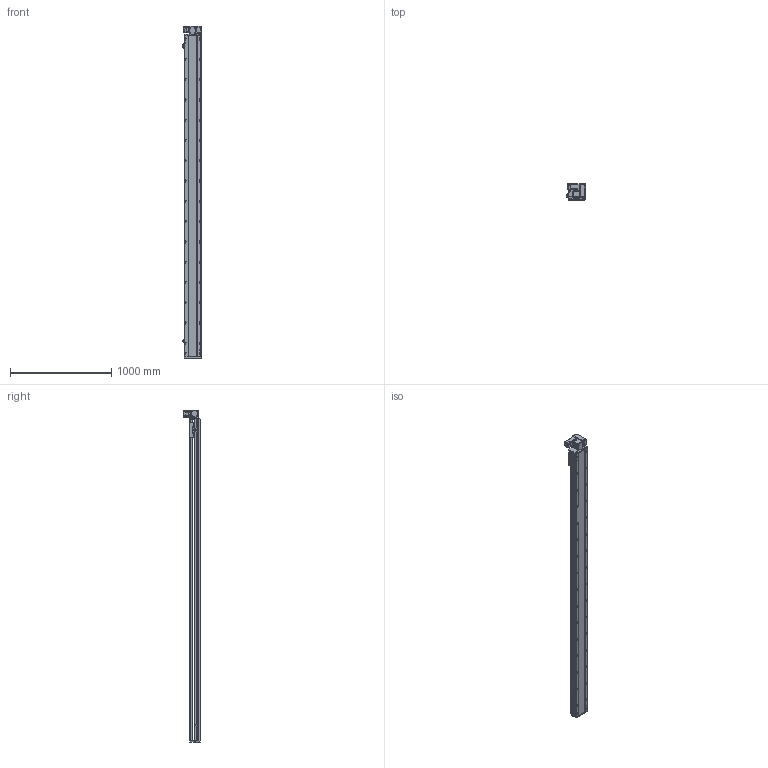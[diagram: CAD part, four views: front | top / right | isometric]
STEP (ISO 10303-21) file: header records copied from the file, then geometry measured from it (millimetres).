
FILE_DESCRIPTION (( 'STEP AP214' ), '1' );
FILE_NAME ('RTB17S-XX-2900-RW-M40-C4.STEP', '2025-12-11T09:16:24', ( '' ), ( '' ), 'SwSTEP 2.0', 'SolidWorks 2018', '' );
FILE_SCHEMA (( 'AUTOMOTIVE_DESIGN' ));
Length unit declared in the file: millimetre
Products named in the file (14): 400W侜督萇儂^RTB17S-XX-XX-RW-M40-C4; RTB17S-L-007奻裔^RTB17S-XX-XX-RW-M40-C4; RTB14-L-018P^RTB17S-RW-々湍釱蚾饜-400W_RTB17S-XX-XX-RW-M40-C4; RTB17S-XX-2900-RW-M40-C4; RTB17S-L-001耜醱啣^RTB17S-XX-XX-RW-M40-C4; RMP17S-L-014-T20--々湍釱^RTB17S-RW-々湍釱蚾饜-400W_RTB17S-XX-XX-RW-M40-C4; RTB14-L-017P^RTB17S-RW-々湍釱蚾饜-400W_RTB17S-XX-XX-RW-M40-C4; RTB14-L-008-M20--萇儂啣^RTB17S-RW-々湍釱蚾饜-400W_RTB17S-XX-XX-RW-M40-C4; RTB17S-L-004佪裝蹟譫蟀諉釱^RTB17S-XX-XX-RW-M40-C4; RTB14-L-005P--轴承塑胶压盖^RTB17S-RW-皮带座装配-400W_RTB17S-XX-XX-RW-M40-C4; RTB17-R-011菁釱^RTB17S-XX-XX-RW-M40-C4; RTB17S-RW-々湍釱蚾饜-400W^RTB17S-XX-XX-RW-M40-C4; OMRON EE-SX672 传感器^RTB17S-XX-XX-RW-M40-C4; RTH13-BL-012覜茼え俋离^RTB17S-XX-XX-RW-M40-C4
Assembly tree (16 placements, depth 3):
  RTB17S-XX-2900-RW-M40-C4
    RTB17-R-011菁釱^RTB17S-XX-XX-RW-M40-C4
    RTB17S-L-007奻裔^RTB17S-XX-XX-RW-M40-C4
    OMRON EE-SX672 传感器^RTB17S-XX-XX-RW-M40-C4  x3
    RTB17S-L-001耜醱啣^RTB17S-XX-XX-RW-M40-C4
    400W侜督萇儂^RTB17S-XX-XX-RW-M40-C4
    RTB17S-L-004佪裝蹟譫蟀諉釱^RTB17S-XX-XX-RW-M40-C4
    RTH13-BL-012覜茼え俋离^RTB17S-XX-XX-RW-M40-C4
    RTB17S-RW-々湍釱蚾饜-400W^RTB17S-XX-XX-RW-M40-C4
      RMP17S-L-014-T20--々湍釱^RTB17S-RW-々湍釱蚾饜-400W_RTB17S-XX-XX-RW-M40-C4
      RTB14-L-005P--轴承塑胶压盖^RTB17S-RW-皮带座装配-400W_RTB17S-XX-XX-RW-M40-C4
      RTB14-L-008-M20--萇儂啣^RTB17S-RW-々湍釱蚾饜-400W_RTB17S-XX-XX-RW-M40-C4
      RTB14-L-017P^RTB17S-RW-々湍釱蚾饜-400W_RTB17S-XX-XX-RW-M40-C4  x2
      RTB14-L-018P^RTB17S-RW-々湍釱蚾饜-400W_RTB17S-XX-XX-RW-M40-C4
Bounding box: 183.5 x 160.5 x 3272.5 mm (x, y, z)
Volume: 27866063.4 mm3; surface area: 3188617.8 mm2
Topology: 15 solids, 15 shells, 2365 faces, 6627 edges, 4329 vertices
Faces by surface type: plane 1088, cylinder 829, bspline 301, cone 139, torus 8
Entity records: 70313 total; most frequent: CARTESIAN_POINT 20032, ORIENTED_EDGE 10098, DIRECTION 9296, EDGE_CURVE 5049, VERTEX_POINT 3317, AXIS2_PLACEMENT_3D 3247, LINE 2802, VECTOR 2802
